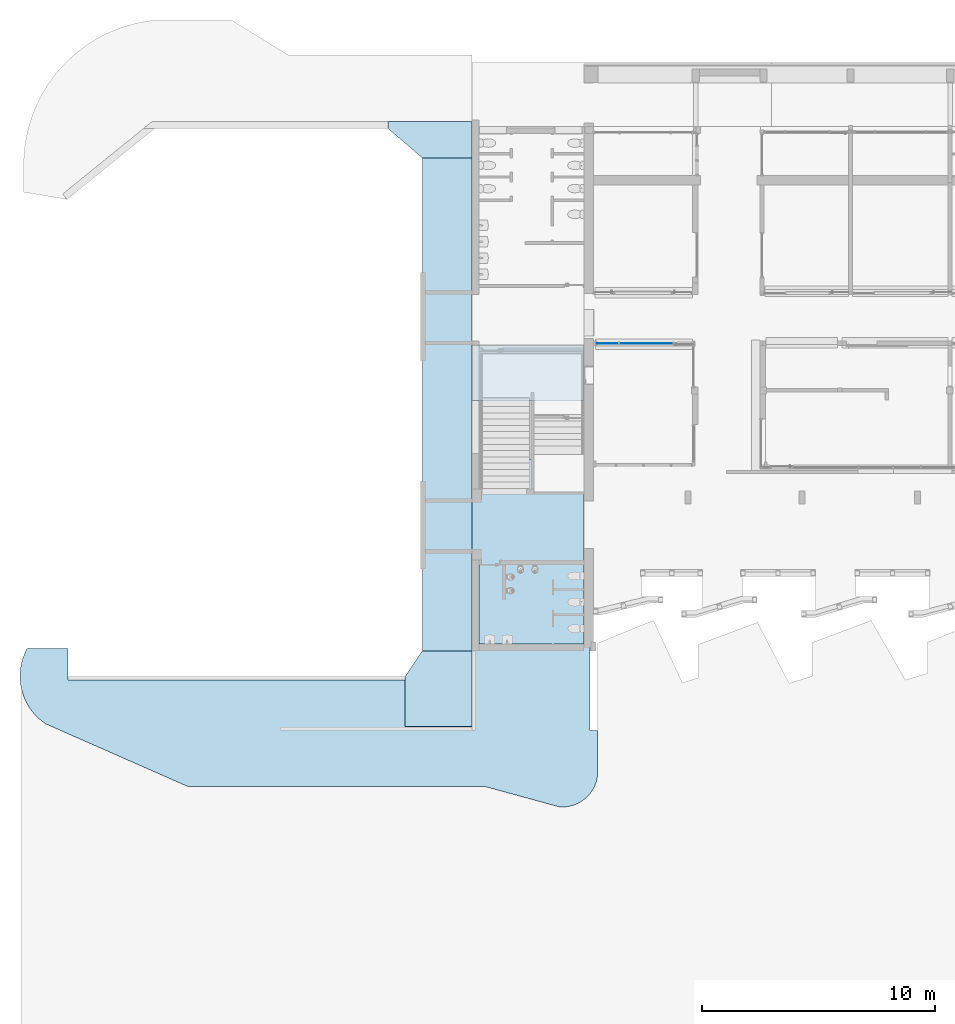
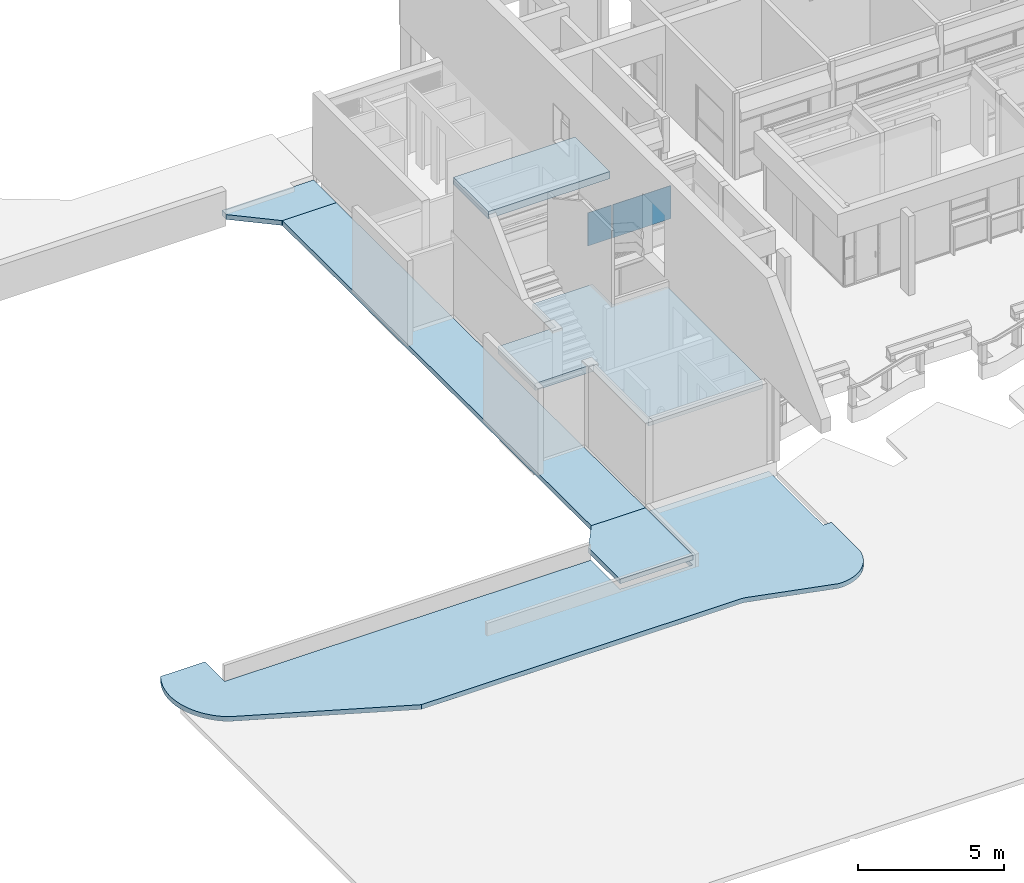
# One storey, part 29 of 117: 6 slabs, 2 plates, 3 elements without a shape of their own.
"""IFC4 building model written with IfcOpenShell, lengths in metres."""

from ifc_helpers import new_model, entity, si_unit, converted_unit, derived_unit, direction, frame, origin, place, context, subcontext, project, spatial, line, arc, indexed_curve, outline, extrude, source, transform, mapped, material, constituent, constituent_set, type_object, type_shapes, element, aggregate, save


model = new_model("IFC4")

# Units and contexts
model_context = context("Model", 3, precision=1e-05, world=origin(), true_north=direction((6.123031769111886e-17, 1.0)))
body_context = subcontext(model_context, "Body", "Model", "MODEL_VIEW")
ifc_project = project(units=[si_unit("LENGTHUNIT", "METRE"), si_unit("AREAUNIT", "SQUARE_METRE"), si_unit("VOLUMEUNIT", "CUBIC_METRE"), converted_unit("PLANEANGLEUNIT", "DEGREE", entity("IfcRatioMeasure", 0.017453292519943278), si_unit("PLANEANGLEUNIT", "RADIAN"), dimensions=[0, 0, 0, 0, 0, 0, 0]), si_unit("MASSUNIT", "GRAM", prefix="KILO"), derived_unit("MASSDENSITYUNIT", [(si_unit("MASSUNIT", "GRAM", prefix="KILO"), 1), (si_unit("LENGTHUNIT", "METRE"), -3)]), derived_unit("MOMENTOFINERTIAUNIT", [(si_unit("LENGTHUNIT", "METRE"), 4)]), si_unit("TIMEUNIT", "SECOND"), si_unit("FREQUENCYUNIT", "HERTZ"), si_unit("THERMODYNAMICTEMPERATUREUNIT", "DEGREE_CELSIUS"), derived_unit("THERMALTRANSMITTANCEUNIT", [(si_unit("MASSUNIT", "GRAM", prefix="KILO"), 1), (si_unit("THERMODYNAMICTEMPERATUREUNIT", "KELVIN"), -1), (si_unit("TIMEUNIT", "SECOND"), -3)]), derived_unit("VOLUMETRICFLOWRATEUNIT", [(si_unit("LENGTHUNIT", "METRE"), 3), (si_unit("TIMEUNIT", "SECOND"), -1)]), derived_unit("MASSFLOWRATEUNIT", [(si_unit("MASSUNIT", "GRAM", prefix="KILO"), 1), (si_unit("TIMEUNIT", "SECOND"), -1)]), derived_unit("ROTATIONALFREQUENCYUNIT", [(si_unit("TIMEUNIT", "SECOND"), -1)]), si_unit("ELECTRICCURRENTUNIT", "AMPERE"), si_unit("ELECTRICVOLTAGEUNIT", "VOLT"), si_unit("POWERUNIT", "WATT"), si_unit("FORCEUNIT", "NEWTON", prefix="KILO"), si_unit("ILLUMINANCEUNIT", "LUX"), si_unit("LUMINOUSFLUXUNIT", "LUMEN"), si_unit("LUMINOUSINTENSITYUNIT", "CANDELA"), derived_unit("USERDEFINED", [(si_unit("MASSUNIT", "GRAM", prefix="KILO"), -1), (si_unit("LENGTHUNIT", "METRE"), -2), (si_unit("TIMEUNIT", "SECOND"), 3), (si_unit("LUMINOUSFLUXUNIT", "LUMEN"), 1)]), derived_unit("SOUNDPOWERUNIT", [(si_unit("MASSUNIT", "GRAM", prefix="KILO"), 1), (si_unit("LENGTHUNIT", "METRE"), 2), (si_unit("TIMEUNIT", "SECOND"), -3)]), derived_unit("SOUNDPRESSUREUNIT", [(si_unit("MASSUNIT", "GRAM", prefix="KILO"), 1), (si_unit("LENGTHUNIT", "METRE"), -1), (si_unit("TIMEUNIT", "SECOND"), -2)]), derived_unit("LINEARVELOCITYUNIT", [(si_unit("LENGTHUNIT", "METRE"), 1), (si_unit("TIMEUNIT", "SECOND"), -1)]), si_unit("PRESSUREUNIT", "PASCAL"), derived_unit("USERDEFINED", [(si_unit("LENGTHUNIT", "METRE"), -2), (si_unit("MASSUNIT", "GRAM", prefix="KILO"), 1), (si_unit("TIMEUNIT", "SECOND"), -2)]), derived_unit("LINEARFORCEUNIT", [(si_unit("MASSUNIT", "GRAM", prefix="KILO"), 1), (si_unit("LENGTHUNIT", "METRE"), 1), (si_unit("TIMEUNIT", "SECOND"), -2), (si_unit("LENGTHUNIT", "METRE"), -1)]), derived_unit("PLANARFORCEUNIT", [(si_unit("MASSUNIT", "GRAM", prefix="KILO"), 1), (si_unit("LENGTHUNIT", "METRE"), 1), (si_unit("TIMEUNIT", "SECOND"), -2), (si_unit("LENGTHUNIT", "METRE"), -2)])], contexts=[model_context])

# Site, building, storey
site_placement = place(None, origin())
site = spatial("IfcSite", under=ifc_project, at=site_placement, Name="Superficie", CompositionType="ELEMENT")
building_placement = place(site_placement, origin())
building = spatial("IfcBuilding", under=site, at=building_placement, CompositionType="ELEMENT")
storey_placement = place(building_placement, origin())
storey = spatial("IfcBuildingStorey", under=building, at=storey_placement, Name="Nivel 0", CompositionType="ELEMENT", Elevation=0.0)

# Slabs
ifc_material_1 = material(Name="Suelos por defecto", Category="Genérico")
slab_type_1 = type_object("IfcSlabType", Name="Suelo:Por defecto - 20 cm 2", PredefinedType="FLOOR", material=ifc_material_1)
slab_1_placement = place(storey_placement, origin())
element("IfcSlab", 1, at=slab_1_placement, inside=storey, type_object=slab_type_1, material=ifc_material_1, Name="Suelo:Por defecto - 20 cm 2", ObjectType="Suelo:Por defecto - 20 cm 2", PredefinedType="FLOOR", context=body_context, shape_type="SweptSolid", body=[
    extrude(outline(indexed_curve([(0.619762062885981, -9.708400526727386), (2.559203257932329, -9.708400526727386), (3.55933855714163, -9.168198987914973), (3.91382880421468, -8.088187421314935), (3.0293916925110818, -4.8517829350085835), (3.0293916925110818, 7.884560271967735), (0.35352688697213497, 13.961433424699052), (-1.108932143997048, 15.005397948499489), (-2.8906083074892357, 14.772420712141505), (-2.8906083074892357, 13.022420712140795), (-1.5406083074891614, 13.022420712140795), (-1.5406083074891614, -1.446441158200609), (0.459391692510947, -1.446441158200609), (0.459391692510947, -4.328400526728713), (-3.090608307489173, -4.328400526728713), (-3.090608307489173, -9.37840052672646), (0.619762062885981, -9.378400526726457)], segments=[line(1, 2), arc(2, 3, 4), line(4, 5, 6, 7), arc(7, 8, 9), line(9, 10, 11, 12, 13, 14, 15, 16, 17, 1)], self_intersect=False)), frame((-32.17160151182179, -12.414779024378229, -0.5399999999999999), z_axis=(0.0, 0.0, -1.0), x_axis=(0.0, -1.0, 0.0)), (0.0, 0.0, 1.0), 0.2),
])
slab_type_2 = type_object("IfcSlabType", Name="Suelo:Por defecto - 20 cm 2", PredefinedType="FLOOR", material=ifc_material_1)
slab_2_placement = place(storey_placement, origin())
element("IfcSlab", 2, at=slab_2_placement, inside=storey, type_object=slab_type_2, material=ifc_material_1, Name="Suelo:Por defecto - 20 cm 2", ObjectType="Suelo:Por defecto - 20 cm 2", PredefinedType="FLOOR", context=body_context, shape_type="SweptSolid", body=[
    extrude(outline(indexed_curve([(0.3882082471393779, -1.744000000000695), (0.6882082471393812, -1.744000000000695), (0.6882082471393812, 1.876000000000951), (-0.8823123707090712, 1.876000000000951), (-0.8823123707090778, -0.2640000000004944), (0.3882082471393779, -1.744000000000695)], self_intersect=False)), frame((-29.71920098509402, 12.407621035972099, -0.2), z_axis=(0.0, 0.0, -1.0), x_axis=(0.0, 1.0, 0.0)), (0.0, 0.0, 1.0), 0.2),
])
slab_type_3 = type_object("IfcSlabType", Name="Suelo:Por defecto - 20 cm 2", PredefinedType="FLOOR", material=ifc_material_1)
slab_3_placement = place(storey_placement, origin())
element("IfcSlab", 3, at=slab_3_placement, inside=storey, type_object=slab_type_3, material=ifc_material_1, Name="Suelo:Por defecto - 20 cm 2", ObjectType="Suelo:Por defecto - 20 cm 2", PredefinedType="FLOOR", context=body_context, shape_type="SweptSolid", body=[
    extrude(outline(indexed_curve([(-1.7300000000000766, -1.3011756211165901), (0.42000000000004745, -1.3011756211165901), (1.5200000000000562, -0.5592162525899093), (1.520000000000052, 1.5807837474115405), (-1.7300000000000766, 1.5807837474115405), (-1.7300000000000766, -1.3011756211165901)], self_intersect=False)), frame((-29.42398473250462, -11.14417071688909, -0.12), z_axis=(0.0, 0.0, -1.0), x_axis=(0.0, 1.0, 0.0)), (0.0, 0.0, 1.0), 0.2),
])
slab_type_4 = type_object("IfcSlabType", Name="Suelo:Por defecto - 20 cm 2", PredefinedType="FLOOR", material=ifc_material_1)
slab_4_placement = place(storey_placement, origin())
element("IfcSlab", 4, at=slab_4_placement, inside=storey, type_object=slab_type_4, material=ifc_material_1, Name="Suelo:Por defecto - 20 cm 2", ObjectType="Suelo:Por defecto - 20 cm 2", PredefinedType="FLOOR", context=body_context, shape_type="SweptSolid", body=[
    extrude(outline(indexed_curve([(-1.0700000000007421, -10.574815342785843), (1.0700000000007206, -10.57481534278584), (1.0700000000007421, 10.574815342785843), (-1.0700000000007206, 10.574815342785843), (-1.0700000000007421, -10.574815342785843)], self_intersect=False)), frame((-28.913200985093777, 0.9505689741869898, -0.36000143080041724), z_axis=(0.0, 0.00378257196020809, 0.9999928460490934), x_axis=(-1.0, 0.0, 0.0)), (0.0, 0.00378257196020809, 0.9999928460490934), 0.20000143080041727),
])

# Curtain wall, plates
curtain_wall_type = type_object("IfcCurtainWallType", Name="Muro cortina:Muro cortina - simple", PredefinedType="NOTDEFINED")
curtain_wall_placement = place(storey_placement, origin())
curtain_wall = element("IfcCurtainWall", 5, at=curtain_wall_placement, inside=storey, type_object=curtain_wall_type, Name="Muro cortina:Muro cortina - simple", ObjectType="Muro cortina:Muro cortina - simple", PredefinedType="NOTDEFINED")
ifc_material_2 = material(Name="Cristal", Category="Vidrio")
plate_type_1 = type_object("IfcPlateType", Name="Panel de sistema:Acristalado", PredefinedType="CURTAIN_PANEL", material=ifc_material_2)
shared_shape_1 = source(origin(), body_context, "Body", "SweptSolid", [
    extrude(outline(indexed_curve([(-0.01, -1.1449999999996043), (0.01, -1.1449999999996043), (0.01, 1.1449999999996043), (-0.01, 1.1449999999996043), (-0.01, -1.1449999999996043)], self_intersect=False)), frame((0.0, 0.0, 0.0), z_axis=(0.0, 0.0, 1.0), x_axis=(0.0, 1.0, 0.0)), (0.0, 0.0, 1.0), 1.3849999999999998),
])
type_shapes(plate_type_1, [shared_shape_1])
plate_1_placement = place(curtain_wall_placement, frame((-20.373200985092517, 3.570829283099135, 0.945), z_axis=(0.0, 0.0, 1.0), x_axis=(-1.0, 0.0, 0.0)))
plate_1 = element("IfcPlate", 6, at=plate_1_placement, type_object=plate_type_1, material=ifc_material_2, Name="Panel de sistema:Acristalado", ObjectType="Panel de sistema:Acristalado", PredefinedType="CURTAIN_PANEL", context=body_context, shape_type="MappedRepresentation", body=[
    mapped(shared_shape_1, transform((0.0, 0.0, 0.0), scale=1.0)),
])
plate_type_2 = type_object("IfcPlateType", Name="Panel de sistema:Acristalado", PredefinedType="CURTAIN_PANEL", material=ifc_material_2)
shared_shape_2 = source(origin(), body_context, "Body", "SweptSolid", [
    extrude(outline(indexed_curve([(-0.01, -0.4651459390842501), (0.01, -0.4651459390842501), (0.01, 0.4651459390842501), (-0.01, 0.4651459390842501), (-0.01, -0.4651459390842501)], self_intersect=False)), frame((0.0, 0.0, 0.0), z_axis=(0.0, 0.0, 1.0), x_axis=(0.0, 1.0, 0.0)), (0.0, 0.0, 1.0), 1.3849999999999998),
])
type_shapes(plate_type_2, [shared_shape_2])
plate_2_placement = place(curtain_wall_placement, frame((-22.03334692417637, 3.5708292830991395, 0.945), z_axis=(0.0, 0.0, 1.0), x_axis=(-1.0, 0.0, 0.0)))
plate_2 = element("IfcPlate", 7, at=plate_2_placement, type_object=plate_type_2, material=ifc_material_2, Name="Panel de sistema:Acristalado", ObjectType="Panel de sistema:Acristalado", PredefinedType="CURTAIN_PANEL", context=body_context, shape_type="MappedRepresentation", body=[
    mapped(shared_shape_2, transform((0.0, 0.0, 0.0), scale=1.0)),
])
aggregate(curtain_wall, [plate_1, plate_2])

# Roof, slab
roof_1_placement = place(storey_placement, frame((-29.843200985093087, -9.324170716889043, 3.0)))
roof_1 = element("IfcRoof", 8, at=roof_1_placement, inside=storey, Name="Cubierta básica:Plana tradicional transitable - 30 cm 2", ObjectType="Cubierta básica:Plana tradicional transitable - 30 cm 2", PredefinedType="NOTDEFINED")
ifc_material_3 = material(Name="Cerámica blanca", Category="Cerámica")
ifc_constituent_1 = constituent(ifc_material_3, Name="Cerámica blanca", Category="Cerámica")
ifc_material_4 = material(Name="Hormigón y arena", Category="Hormigón")
ifc_constituent_2 = constituent(ifc_material_4, Name="Hormigón y arena", Category="Hormigón")
ifc_material_5 = material(Name="Aislamiento térmico", Category="Varios")
ifc_constituent_3 = constituent(ifc_material_5, Name="Aislamiento térmico", Category="Varios")
ifc_material_6 = material(Name="Hormigón", Category="Hormigón")
ifc_constituent_4 = constituent(ifc_material_6, Name="Hormigón", Category="Hormigón")
ifc_constituent_set = constituent_set(constituents=[ifc_constituent_1, ifc_constituent_2, ifc_constituent_3, ifc_constituent_4], Name="Cubierta básica:Plana tradicional transitable - 30 cm 2")
slab_type_5 = type_object("IfcSlabType", Name="Cubierta básica:Plana tradicional transitable - 30 cm 2", PredefinedType="ROOF")
slab_5_placement = place(roof_1_placement, origin())
slab_5 = element("IfcSlab", 9, at=slab_5_placement, type_object=slab_type_5, material=ifc_constituent_set, Name="Cubierta básica:Plana tradicional transitable - 30 cm 2", ObjectType="Cubierta básica:Plana tradicional transitable - 30 cm 2", PredefinedType="ROOF", context=body_context, shape_type="SweptSolid", body=[
    extrude(outline(indexed_curve([(1.2499999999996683, 3.967251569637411), (-1.099999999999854, 3.967251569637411), (-1.099999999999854, 2.367251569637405), (-3.399999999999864, 2.367251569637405), (-3.399999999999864, 2.267251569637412), (-3.399999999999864, -0.18774843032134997), (-1.0999999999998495, -0.18774843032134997), (-1.0999999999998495, -3.967251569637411), (3.399999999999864, -3.967251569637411), (3.399999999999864, 2.5527484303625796), (1.2499999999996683, 2.5527484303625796), (1.2499999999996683, 3.967251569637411)], self_intersect=False)), frame((3.399999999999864, 3.967251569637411, 0.0)), (0.0, 0.0, 1.0), 0.02),
    extrude(outline(indexed_curve([(1.2499999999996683, 3.967251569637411), (-1.099999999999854, 3.967251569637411), (-1.099999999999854, 2.367251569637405), (-3.399999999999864, 2.367251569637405), (-3.399999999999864, 2.267251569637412), (-3.399999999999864, -0.18774843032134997), (-1.0999999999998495, -0.18774843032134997), (-1.0999999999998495, -3.967251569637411), (3.399999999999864, -3.967251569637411), (3.399999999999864, 2.5527484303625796), (1.2499999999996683, 2.5527484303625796), (1.2499999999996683, 3.967251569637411)], self_intersect=False)), frame((3.399999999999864, 3.967251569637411, 0.019999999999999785)), (0.0, 0.0, 1.0), 0.08),
    extrude(outline(indexed_curve([(1.2499999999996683, 3.967251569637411), (-1.099999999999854, 3.967251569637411), (-1.099999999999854, 2.367251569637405), (-3.399999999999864, 2.367251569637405), (-3.399999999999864, 2.267251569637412), (-3.399999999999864, -0.18774843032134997), (-1.0999999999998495, -0.18774843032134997), (-1.0999999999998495, -3.967251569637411), (3.399999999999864, -3.967251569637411), (3.399999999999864, 2.5527484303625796), (1.2499999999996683, 2.5527484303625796), (1.2499999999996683, 3.967251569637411)], self_intersect=False)), frame((3.399999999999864, 3.967251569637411, 0.1)), (0.0, 0.0, 1.0), 0.08),
    extrude(outline(indexed_curve([(1.2499999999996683, 3.967251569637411), (-1.099999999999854, 3.967251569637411), (-1.099999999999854, 2.367251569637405), (-3.399999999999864, 2.367251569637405), (-3.399999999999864, 2.267251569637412), (-3.399999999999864, -0.18774843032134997), (-1.0999999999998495, -0.18774843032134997), (-1.0999999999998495, -3.967251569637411), (3.399999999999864, -3.967251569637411), (3.399999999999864, 2.5527484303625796), (1.2499999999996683, 2.5527484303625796), (1.2499999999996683, 3.967251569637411)], self_intersect=False)), frame((3.399999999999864, 3.967251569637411, 0.18000000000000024)), (0.0, 0.0, 1.0), 0.12),
])
aggregate(roof_1, [slab_5])

roof_2_placement = place(storey_placement, frame((-27.843200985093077, 1.1258292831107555, 5.429999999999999)))
roof_2 = element("IfcRoof", 10, at=roof_2_placement, inside=storey, Name="Cubierta básica:Plana tradicional transitable - 30 cm 2", ObjectType="Cubierta básica:Plana tradicional transitable - 30 cm 2", PredefinedType="NOTDEFINED")
slab_type_6 = type_object("IfcSlabType", Name="Cubierta básica:Plana tradicional transitable - 30 cm 2", PredefinedType="ROOF")
slab_6_placement = place(roof_2_placement, origin())
slab_6 = element("IfcSlab", 11, at=slab_6_placement, type_object=slab_type_6, material=ifc_constituent_set, Name="Cubierta básica:Plana tradicional transitable - 30 cm 2", ObjectType="Cubierta básica:Plana tradicional transitable - 30 cm 2", PredefinedType="ROOF", context=body_context, shape_type="SweptSolid", body=[
    extrude(outline(indexed_curve([(-2.399999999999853, -1.1899999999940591), (2.3999999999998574, -1.1899999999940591), (2.3999999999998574, 1.1899999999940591), (-2.399999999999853, 1.1899999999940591), (-2.399999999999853, -1.1899999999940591)], self_intersect=False)), frame((2.399999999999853, 1.1899999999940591, 0.0)), (0.0, 0.0, 1.0), 0.02),
    extrude(outline(indexed_curve([(-2.399999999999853, -1.1899999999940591), (2.3999999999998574, -1.1899999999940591), (2.3999999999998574, 1.1899999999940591), (-2.399999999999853, 1.1899999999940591), (-2.399999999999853, -1.1899999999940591)], self_intersect=False)), frame((2.399999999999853, 1.1899999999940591, 0.019999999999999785)), (0.0, 0.0, 1.0), 0.08),
    extrude(outline(indexed_curve([(-2.399999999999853, -1.1899999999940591), (2.3999999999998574, -1.1899999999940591), (2.3999999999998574, 1.1899999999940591), (-2.399999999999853, 1.1899999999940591), (-2.399999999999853, -1.1899999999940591)], self_intersect=False)), frame((2.399999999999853, 1.1899999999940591, 0.1)), (0.0, 0.0, 1.0), 0.08),
    extrude(outline(indexed_curve([(-2.399999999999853, -1.1899999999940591), (2.3999999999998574, -1.1899999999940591), (2.3999999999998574, 1.1899999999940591), (-2.399999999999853, 1.1899999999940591), (-2.399999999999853, -1.1899999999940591)], self_intersect=False)), frame((2.399999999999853, 1.1899999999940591, 0.18000000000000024)), (0.0, 0.0, 1.0), 0.12),
])
aggregate(roof_2, [slab_6])

save(model, "model.ifc")
